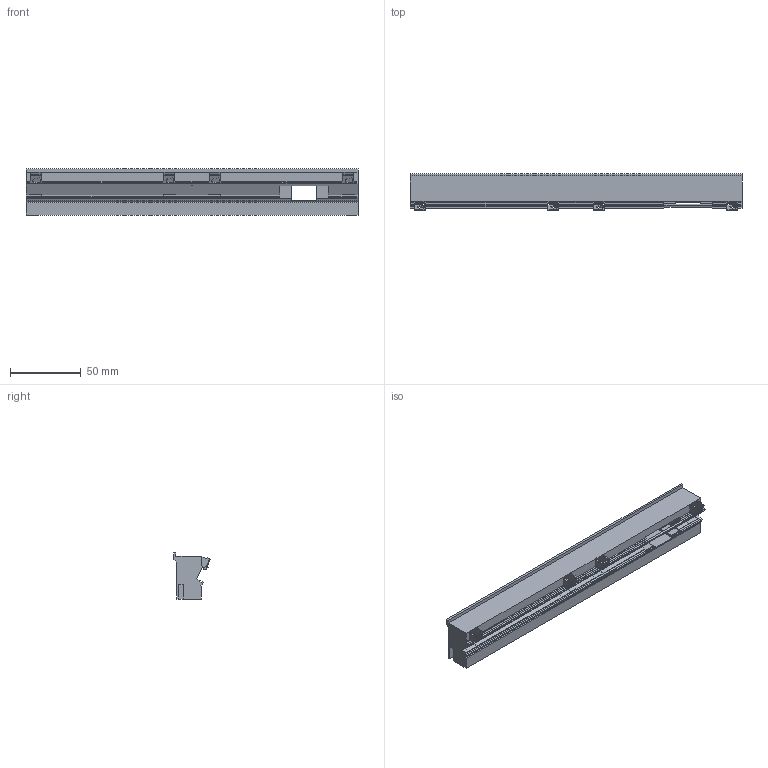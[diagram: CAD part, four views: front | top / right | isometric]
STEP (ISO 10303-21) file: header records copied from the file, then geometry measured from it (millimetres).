
FILE_DESCRIPTION(('Open CASCADE Model'),'2;1');
FILE_NAME('SOLID','2026-10-21T18:37:45',('Author'),('Open CASCADE'), 'Open CASCADE STEP processor 8.0','build123d','Unknown');
FILE_SCHEMA(('AUTOMOTIVE_DESIGN { 1 0 10303 214 1 1 1 1 }'));
Products named in the file (1): SOLID
Bounding box: 234 x 25.92 x 32.5 mm (x, y, z)
Volume: 116999.7 mm3; surface area: 31127.4 mm2
Topology: 1 solids, 1 shells, 647 faces, 1848 edges, 1188 vertices
Faces by surface type: plane 371, cylinder 276
Entity records: 49506 total; most frequent: CARTESIAN_POINT 14499, DIRECTION 6166, ORIENTED_EDGE 3696, PCURVE 3696, DEFINITIONAL_REPRESENTATION 3696, LINE 2863, VECTOR 2863, EDGE_CURVE 1848
